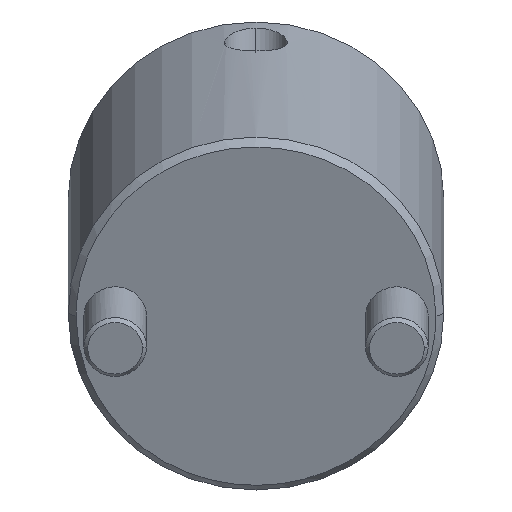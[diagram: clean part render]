
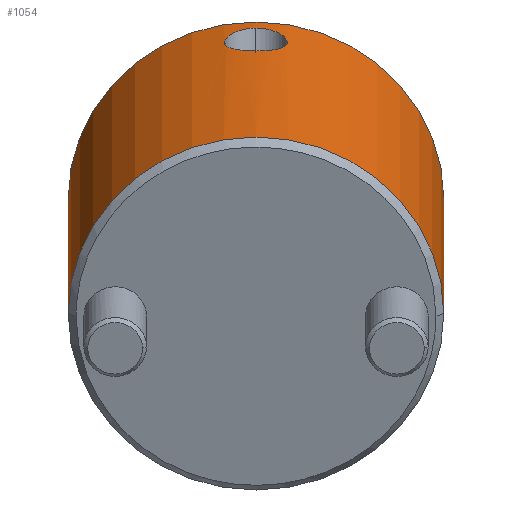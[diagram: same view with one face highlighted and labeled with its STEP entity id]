
A CAD part, front view. The second image highlights one B-rep face of the part: STEP entity #1054.
In plain terms, the highlighted cylindrical face has radius 24 mm (diameter 48 mm), a partial arc.
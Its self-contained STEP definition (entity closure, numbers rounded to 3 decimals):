
#805=CARTESIAN_POINT('Vertex',(0.,24.,1.)) ;
#808=CARTESIAN_POINT('Axis2P3D Location',(0.,0.,1.)) ;
#812=CARTESIAN_POINT('Vertex',(0.,-24.,1.)) ;
#964=CARTESIAN_POINT('Axis2P3D Location',(0.,0.,-2.25)) ;
#969=CARTESIAN_POINT('Line Origine',(0.,24.,-2.25)) ;
#973=CARTESIAN_POINT('Vertex',(0.,24.,44.)) ;
#976=CARTESIAN_POINT('Axis2P3D Location',(0.,0.,44.)) ;
#980=CARTESIAN_POINT('Vertex',(0.,-24.,44.)) ;
#983=CARTESIAN_POINT('Line Origine',(0.,-24.,-2.25)) ;
#995=CARTESIAN_POINT('Control Point',(24.,0.,41.721)) ;
#996=CARTESIAN_POINT('Control Point',(24.,0.376,41.721)) ;
#997=CARTESIAN_POINT('Control Point',(23.993,0.745,41.672)) ;
#998=CARTESIAN_POINT('Control Point',(23.978,1.106,41.575)) ;
#999=CARTESIAN_POINT('Control Point',(23.938,1.806,41.29)) ;
#1000=CARTESIAN_POINT('Control Point',(23.88,2.43,40.838)) ;
#1001=CARTESIAN_POINT('Control Point',(23.847,2.726,40.563)) ;
#1002=CARTESIAN_POINT('Control Point',(23.797,3.127,40.093)) ;
#1003=CARTESIAN_POINT('Control Point',(23.752,3.442,39.557)) ;
#1004=CARTESIAN_POINT('Control Point',(23.738,3.538,39.372)) ;
#1005=CARTESIAN_POINT('Control Point',(23.699,3.792,38.8)) ;
#1006=CARTESIAN_POINT('Control Point',(23.673,3.949,38.191)) ;
#1007=CARTESIAN_POINT('Control Point',(23.663,4.009,37.776)) ;
#1008=CARTESIAN_POINT('Control Point',(23.659,4.032,36.837)) ;
#1009=CARTESIAN_POINT('Control Point',(23.695,3.819,35.939)) ;
#1010=CARTESIAN_POINT('Control Point',(23.725,3.633,35.475)) ;
#1011=CARTESIAN_POINT('Control Point',(23.793,3.181,34.705)) ;
#1012=CARTESIAN_POINT('Control Point',(23.868,2.542,34.09)) ;
#1013=CARTESIAN_POINT('Control Point',(23.9,2.227,33.856)) ;
#1014=CARTESIAN_POINT('Control Point',(23.951,1.613,33.506)) ;
#1015=CARTESIAN_POINT('Control Point',(23.985,0.939,33.3)) ;
#1016=CARTESIAN_POINT('Control Point',(23.995,0.629,33.238)) ;
#1017=CARTESIAN_POINT('Control Point',(24.,0.316,33.207)) ;
#1018=CARTESIAN_POINT('Control Point',(24.,0.,33.207)) ;
#1019=CARTESIAN_POINT('Vertex',(24.,0.,41.721)) ;
#1021=CARTESIAN_POINT('Vertex',(24.,0.,33.207)) ;
#1025=CARTESIAN_POINT('Control Point',(24.,0.,33.207)) ;
#1026=CARTESIAN_POINT('Control Point',(24.,-0.488,33.207)) ;
#1027=CARTESIAN_POINT('Control Point',(23.988,-0.968,33.281)) ;
#1028=CARTESIAN_POINT('Control Point',(23.963,-1.44,33.429)) ;
#1029=CARTESIAN_POINT('Control Point',(23.909,-2.144,33.776)) ;
#1030=CARTESIAN_POINT('Control Point',(23.845,-2.739,34.283)) ;
#1031=CARTESIAN_POINT('Control Point',(23.82,-2.944,34.493)) ;
#1032=CARTESIAN_POINT('Control Point',(23.755,-3.441,35.105)) ;
#1033=CARTESIAN_POINT('Control Point',(23.702,-3.779,35.825)) ;
#1034=CARTESIAN_POINT('Control Point',(23.677,-3.924,36.308)) ;
#1035=CARTESIAN_POINT('Control Point',(23.659,-4.029,37.024)) ;
#1036=CARTESIAN_POINT('Control Point',(23.666,-3.989,37.747)) ;
#1037=CARTESIAN_POINT('Control Point',(23.67,-3.966,37.955)) ;
#1038=CARTESIAN_POINT('Control Point',(23.685,-3.879,38.47)) ;
#1039=CARTESIAN_POINT('Control Point',(23.71,-3.72,38.967)) ;
#1040=CARTESIAN_POINT('Control Point',(23.729,-3.601,39.257)) ;
#1041=CARTESIAN_POINT('Control Point',(23.765,-3.361,39.724)) ;
#1042=CARTESIAN_POINT('Control Point',(23.805,-3.059,40.147)) ;
#1043=CARTESIAN_POINT('Control Point',(23.821,-2.929,40.309)) ;
#1044=CARTESIAN_POINT('Control Point',(23.886,-2.382,40.913)) ;
#1045=CARTESIAN_POINT('Control Point',(23.947,-1.721,41.359)) ;
#1046=CARTESIAN_POINT('Control Point',(23.981,-1.177,41.597)) ;
#1047=CARTESIAN_POINT('Control Point',(24.,-0.597,41.721)) ;
#1048=CARTESIAN_POINT('Control Point',(24.,0.,41.721)) ;
#809=DIRECTION('Axis2P3D Direction',(0.,0.,1.)) ;
#965=DIRECTION('Axis2P3D Direction',(0.,-0.,1.)) ;
#966=DIRECTION('Axis2P3D XDirection',(0.,-1.,0.)) ;
#970=DIRECTION('Vector Direction',(0.,0.,1.)) ;
#977=DIRECTION('Axis2P3D Direction',(0.,-0.,1.)) ;
#984=DIRECTION('Vector Direction',(0.,0.,1.)) ;
#810=AXIS2_PLACEMENT_3D('Circle Axis2P3D',#808,#809,$) ;
#967=AXIS2_PLACEMENT_3D('Cylinder Axis2P3D',#964,#965,#966) ;
#978=AXIS2_PLACEMENT_3D('Circle Axis2P3D',#976,#977,$) ;
#989=ORIENTED_EDGE('',*,*,#975,.F.) ;
#990=ORIENTED_EDGE('',*,*,#982,.T.) ;
#991=ORIENTED_EDGE('',*,*,#987,.T.) ;
#992=ORIENTED_EDGE('',*,*,#814,.F.) ;
#1051=ORIENTED_EDGE('',*,*,#1023,.T.) ;
#1052=ORIENTED_EDGE('',*,*,#1049,.T.) ;
#1053=FACE_BOUND('',#1050,.T.) ;
#971=VECTOR('Line Direction',#970,1.) ;
#985=VECTOR('Line Direction',#984,1.) ;
#1054=ADVANCED_FACE('MANIFOLD_SOLID_BREP #1138',(#993,#1053),#968,.T.) ;
#994=B_SPLINE_CURVE_WITH_KNOTS('',5,(#995,#996,#997,#998,#999,#1000,#1001,#1002,#1003,#1004,#1005,#1006,#1007,#1008,#1009,#1010,#1011,#1012,#1013,#1014,#1015,#1016,#1017,#1018),.UNSPECIFIED.,.F.,.U.,(6,3,3,3,3,3,3,6),(0.,2.693,5.516,6.952,9.815,13.339,16.131,18.389),.UNSPECIFIED.) ;
#1024=B_SPLINE_CURVE_WITH_KNOTS('',5,(#1025,#1026,#1027,#1028,#1029,#1030,#1031,#1032,#1033,#1034,#1035,#1036,#1037,#1038,#1039,#1040,#1041,#1042,#1043,#1044,#1045,#1046,#1047,#1048),.UNSPECIFIED.,.F.,.U.,(6,3,3,3,3,3,3,6),(0.,3.488,5.589,9.113,10.538,12.7,14.12,18.39),.UNSPECIFIED.) ;
#811=CIRCLE('generated circle',#810,24.) ;
#979=CIRCLE('generated circle',#978,24.) ;
#968=CYLINDRICAL_SURFACE('generated cylinder',#967,24.) ;
#814=EDGE_CURVE('',#806,#813,#811,.F.) ;
#975=EDGE_CURVE('',#974,#806,#972,.F.) ;
#982=EDGE_CURVE('',#974,#981,#979,.F.) ;
#987=EDGE_CURVE('',#981,#813,#986,.F.) ;
#1023=EDGE_CURVE('',#1020,#1022,#994,.T.) ;
#1049=EDGE_CURVE('',#1022,#1020,#1024,.T.) ;
#988=EDGE_LOOP('',(#989,#990,#991,#992)) ;
#1050=EDGE_LOOP('',(#1051,#1052)) ;
#993=FACE_OUTER_BOUND('',#988,.T.) ;
#972=LINE('Line',#969,#971) ;
#986=LINE('Line',#983,#985) ;
#806=VERTEX_POINT('',#805) ;
#813=VERTEX_POINT('',#812) ;
#974=VERTEX_POINT('',#973) ;
#981=VERTEX_POINT('',#980) ;
#1020=VERTEX_POINT('',#1019) ;
#1022=VERTEX_POINT('',#1021) ;
